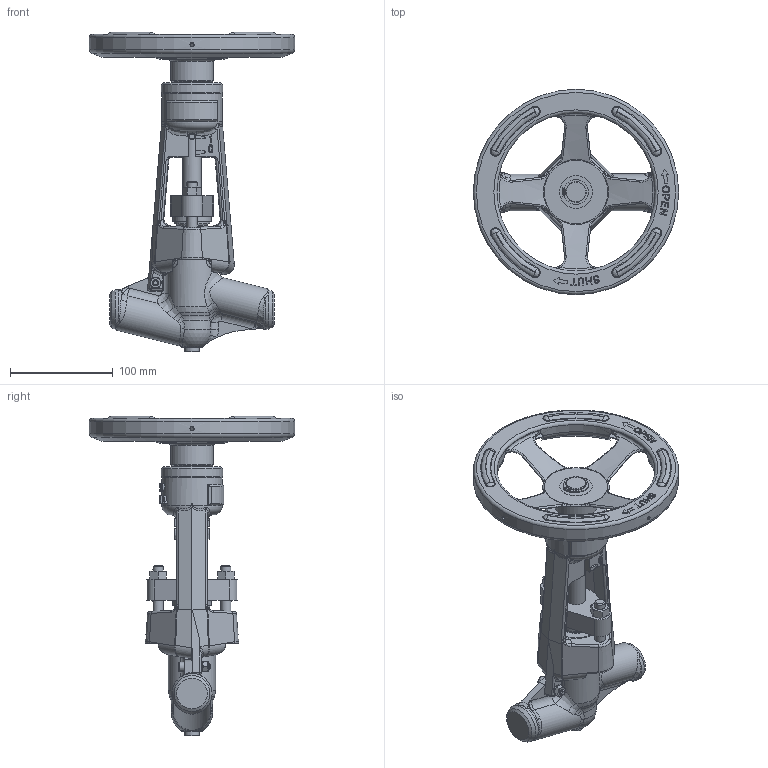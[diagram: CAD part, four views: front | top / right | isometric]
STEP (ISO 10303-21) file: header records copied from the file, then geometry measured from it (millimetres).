
FILE_DESCRIPTION(/* description */ (''),/* implementation_level */ '2;1');
FILE_NAME(/* name */ 'UV526_DN20_25_RK.stp',/* time_stamp */ '2016-06-08T14:01:18+02:00',/* author */ (''),/* organization */ (''),/* preprocessor_version */ 'ST-DEVELOPER v15',/* originating_system */ 'SIEMENS PLM Software NX 8.5',/* authorisation */ '');
FILE_SCHEMA (('AP203_CONFIGURATION_CONTROLLED_3D_DESIGN_OF_MECHANICAL_PARTS_AND_ASSEMBLIES_MIM_LF { 1 0 10303 403 2 1 2}'));
Length unit declared in the file: millimetre
Products named in the file (1): ploc2F4C05CFg43t
Bounding box: 200 x 200 x 311 mm (x, y, z)
Volume: 825025.9 mm3; surface area: 186538 mm2
Topology: 1 solids, 2 shells, 926 faces, 2340 edges, 1436 vertices
Faces by surface type: plane 285, bspline 217, cylinder 177, cone 95, torus 80, extrusion 65, sphere 7
Full cylindrical faces by diameter (mm): 2 x2, 4 x4, 6 x4, 6.1 x1, 7 x1, 8.782 x2, 9 x1, 9.1 x1, 10 x4, 11 x2, 14 x1, 18 x2, 19 x1, 20 x3, 27 x1, 30 x1, 32 x1, 32.2 x1, 35 x1, 38 x1, 42 x1, 46 x2, 59 x1, 60 x1, 154 x1, 158 x1, 196 x1, 200 x1
Entity records: 35332 total; most frequent: CARTESIAN_POINT 15616, ORIENTED_EDGE 4384, DIRECTION 3487, EDGE_CURVE 2192, AXIS2_PLACEMENT_3D 1405, VERTEX_POINT 1397, EDGE_LOOP 1093, ADVANCED_FACE 925
